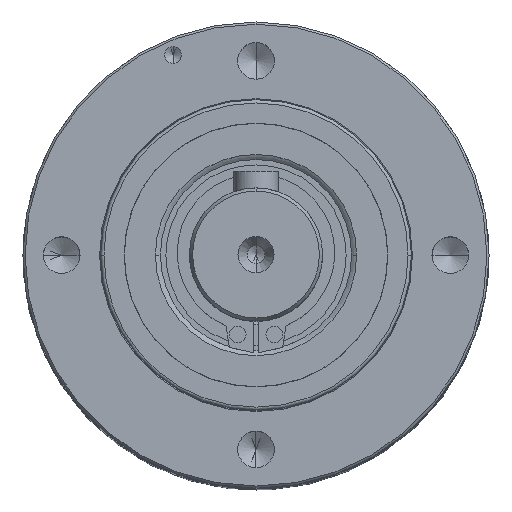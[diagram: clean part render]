
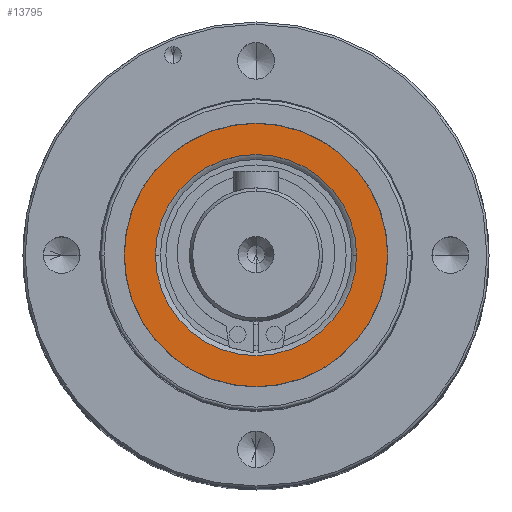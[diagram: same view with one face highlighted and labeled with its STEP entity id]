
A CAD part, top view. The second image highlights one B-rep face of the part: STEP entity #13795.
In plain terms, the highlighted planar face has unit normal (0, 0, 1).
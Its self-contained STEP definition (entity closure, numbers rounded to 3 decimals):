
#123 = ORIENTED_EDGE ( 'NONE', *, *, #53424, .F. ) ;
#474 = CARTESIAN_POINT ( 'NONE',  ( -6.734, -8.599, 109.685 ) ) ;
#3628 = CARTESIAN_POINT ( 'NONE',  ( 5.131, -8.599, 109.685 ) ) ;
#12783 = VERTEX_POINT ( 'NONE', #474 ) ;
#13795 = ADVANCED_FACE ( 'NONE', ( #30408, #30787 ), #61461, .T. ) ;
#17257 = EDGE_CURVE ( 'NONE', #50735, #12783, #32833, .T. ) ;
#17509 = ORIENTED_EDGE ( 'NONE', *, *, #17257, .T. ) ;
#18117 = CIRCLE ( 'NONE', #42387, 11.865 ) ;
#21364 = DIRECTION ( 'NONE',  ( 1., 0., 0. ) ) ;
#21775 = CARTESIAN_POINT ( 'NONE',  ( 5.131, -8.599, 109.685 ) ) ;
#25188 = CARTESIAN_POINT ( 'NONE',  ( 5.131, -8.599, 109.685 ) ) ;
#27142 = EDGE_CURVE ( 'NONE', #67702, #75445, #71087, .T. ) ;
#28097 = EDGE_CURVE ( 'NONE', #67702, #75445, #30599, .T. ) ;
#30408 = FACE_BOUND ( 'NONE', #54054, .T. ) ;
#30599 = CIRCLE ( 'NONE', #34410, 9.06 ) ;
#30787 = FACE_OUTER_BOUND ( 'NONE', #61577, .T. ) ;
#32833 = CIRCLE ( 'NONE', #77476, 11.865 ) ;
#33383 = CARTESIAN_POINT ( 'NONE',  ( 5.131, -8.599, 109.685 ) ) ;
#34357 = CARTESIAN_POINT ( 'NONE',  ( 16.996, -8.599, 109.685 ) ) ;
#34410 = AXIS2_PLACEMENT_3D ( 'NONE', #33383, #70070, #40920 ) ;
#36918 = CARTESIAN_POINT ( 'NONE',  ( 5.131, -8.599, 109.685 ) ) ;
#40466 = AXIS2_PLACEMENT_3D ( 'NONE', #21775, #70461, #21364 ) ;
#40920 = DIRECTION ( 'NONE',  ( 1., 0., 0. ) ) ;
#42387 = AXIS2_PLACEMENT_3D ( 'NONE', #25188, #67841, #48746 ) ;
#42681 = AXIS2_PLACEMENT_3D ( 'NONE', #3628, #69010, #76633 ) ;
#48070 = CARTESIAN_POINT ( 'NONE',  ( 14.191, -8.599, 109.685 ) ) ;
#48746 = DIRECTION ( 'NONE',  ( 1., 0., 0. ) ) ;
#49703 = DIRECTION ( 'NONE',  ( 0., 0., 1. ) ) ;
#50344 = ORIENTED_EDGE ( 'NONE', *, *, #27142, .T. ) ;
#50735 = VERTEX_POINT ( 'NONE', #34357 ) ;
#53424 = EDGE_CURVE ( 'NONE', #50735, #12783, #18117, .T. ) ;
#54054 = EDGE_LOOP ( 'NONE', ( #78913, #50344 ) ) ;
#61461 = PLANE ( 'NONE',  #42681 ) ;
#61577 = EDGE_LOOP ( 'NONE', ( #123, #17509 ) ) ;
#67702 = VERTEX_POINT ( 'NONE', #48070 ) ;
#67841 = DIRECTION ( 'NONE',  ( 0., 0., -1. ) ) ;
#69010 = DIRECTION ( 'NONE',  ( 0., 0., 1. ) ) ;
#70070 = DIRECTION ( 'NONE',  ( 0., 0., 1. ) ) ;
#70461 = DIRECTION ( 'NONE',  ( 0., 0., -1. ) ) ;
#71087 = CIRCLE ( 'NONE', #40466, 9.06 ) ;
#74057 = DIRECTION ( 'NONE',  ( 1., 0., 0. ) ) ;
#75445 = VERTEX_POINT ( 'NONE', #77700 ) ;
#76633 = DIRECTION ( 'NONE',  ( 1., 0., 0. ) ) ;
#77476 = AXIS2_PLACEMENT_3D ( 'NONE', #36918, #49703, #74057 ) ;
#77700 = CARTESIAN_POINT ( 'NONE',  ( -3.929, -8.599, 109.685 ) ) ;
#78913 = ORIENTED_EDGE ( 'NONE', *, *, #28097, .F. ) ;
